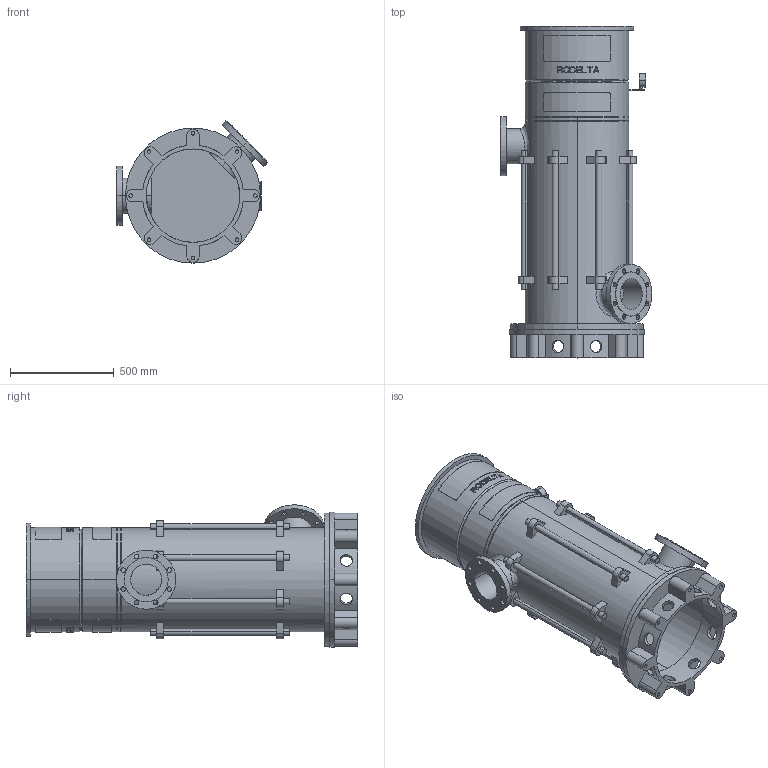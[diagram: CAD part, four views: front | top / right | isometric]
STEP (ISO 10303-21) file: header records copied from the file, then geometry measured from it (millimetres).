
FILE_DESCRIPTION((''),'2;1');
FILE_NAME('LS6_4TR_0GR_PN16_ABOVE_30KW','2025-10-23T14:00:19',('Lyritlocal'),(''),'CREO PARAMETRIC BY PTC INC, 2022014','CREO PARAMETRIC BY PTC INC, 2022014','');
FILE_SCHEMA(('CONFIG_CONTROL_DESIGN'));
Length unit declared in the file: millimetre
Products named in the file (1): LS6_4TR_0GR_PN16_ABOVE_30KW
Bounding box: 730.27 x 1597 x 685.27 mm (x, y, z)
Volume: 53239372 mm3; surface area: 7315314.1 mm2
Topology: 3 solids, 11 shells, 732 faces, 1889 edges, 1258 vertices
Faces by surface type: plane 438, cylinder 274, cone 12, bspline 8
Entity records: 24305 total; most frequent: CARTESIAN_POINT 6485, ORIENTED_EDGE 3746, DIRECTION 3535, EDGE_CURVE 1889, AXIS2_PLACEMENT_3D 1341, VERTEX_POINT 1258, EDGE_LOOP 895, VECTOR 853
